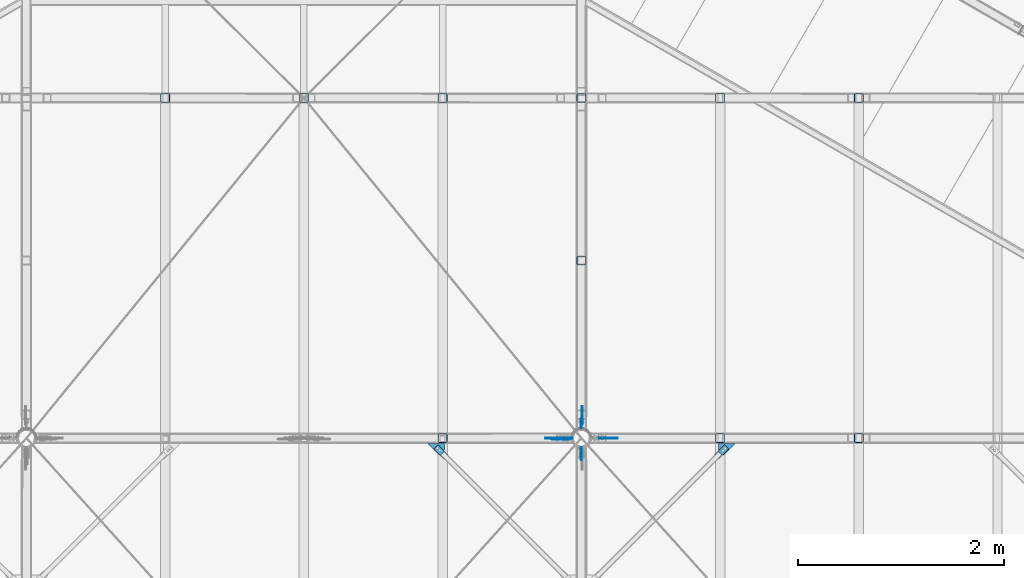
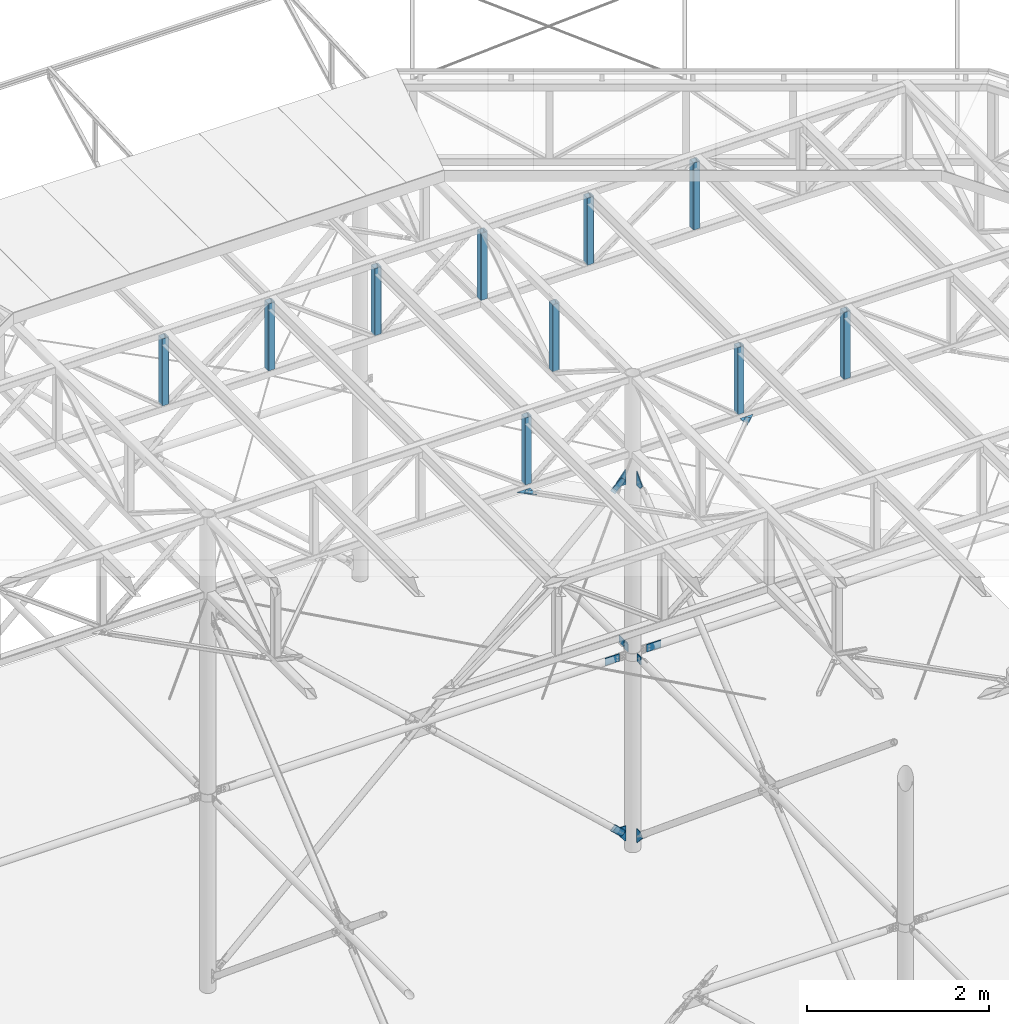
# One storey, part 91 of 132: 31 discrete accessories, 17 elements without a shape of their own.
"""IFC2X3 building model written with IfcOpenShell, lengths in millimetres."""

from ifc_helpers import new_model, si_unit, frame, origin_with_axes, origin_2d_with_axis, place, context, subcontext, project, spatial, polyline, rectangle, hollow_rectangle, outline, extrude, boolean, clip, halfspace, material, type_object, element, aggregate, save


model = new_model("IFC2X3")

# Units and contexts
model_context = context("Model", 3, precision=1e-05, world=origin_with_axes())
body_context = subcontext(model_context, "Body", "Model", "MODEL_VIEW")
ifc_project = project(units=[si_unit("LENGTHUNIT", "METRE", prefix="MILLI"), si_unit("AREAUNIT", "SQUARE_METRE"), si_unit("VOLUMEUNIT", "CUBIC_METRE"), si_unit("MASSUNIT", "GRAM", prefix="KILO"), si_unit("TIMEUNIT", "SECOND"), si_unit("PLANEANGLEUNIT", "RADIAN"), si_unit("SOLIDANGLEUNIT", "STERADIAN"), si_unit("THERMODYNAMICTEMPERATUREUNIT", "DEGREE_CELSIUS"), si_unit("LUMINOUSINTENSITYUNIT", "LUMEN")], contexts=[model_context])

# Site, building, storey
site_placement = place(None, origin_with_axes())
site = spatial("IfcSite", under=ifc_project, at=site_placement, Name="Budowa", CompositionType="ELEMENT")
building_placement = place(site_placement, origin_with_axes())
building = spatial("IfcBuilding", under=site, at=building_placement, Name="Undefined", CompositionType="ELEMENT")
storey_placement = place(building_placement, origin_with_axes())
storey = spatial("IfcBuildingStorey", under=building, at=storey_placement, Name="Undefined", CompositionType="ELEMENT", Elevation=0.0)

# Assembly, discrete accessories
assembly_1_placement = place(storey_placement, origin_with_axes())
assembly_1 = element("IfcElementAssembly", 1, at=assembly_1_placement, inside=storey, Name="Steel Assembly", AssemblyPlace="NOTDEFINED", PredefinedType="RIGID_FRAME")
ifc_material = material(Name="STEEL/S235")
discrete_accessory_type_1 = type_object("IfcDiscreteAccessoryType", Name="BLACHA")
discrete_accessory_1_placement = place(assembly_1_placement, frame((14736.1000002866, 17999.9990001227, 12407.0002670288), z_axis=(0.0, -1.0, 0.0), x_axis=(0.0, 0.0, 1.0)))
discrete_accessory_1 = element("IfcDiscreteAccessory", 2, at=discrete_accessory_1_placement, type_object=discrete_accessory_type_1, material=ifc_material, Name="BLACHA", ObjectType="BL8*126", context=body_context, shape_type="SweptSolid", body=[
    extrude(outline(polyline([(0.0, 0.0), (203.000061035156, 0.0), (203.000061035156, 10.0), (58.0005645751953, 125.999824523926), (-1.72803993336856e-10, 72.998420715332), (0.0, 0.0)])), frame((0.0, 0.0, -4.0), z_axis=(0.0, 0.0, 1.0), x_axis=(1.0, 0.0, 0.0)), (0.0, 0.0, 1.0), 8.0),
])
discrete_accessory_2_placement = place(assembly_1_placement, frame((14736.1000003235, 17999.9990001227, 7622.0004196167), z_axis=(0.0, -1.0, 0.0), x_axis=(0.0, 0.0, 1.0)))
discrete_accessory_2 = element("IfcDiscreteAccessory", 3, at=discrete_accessory_2_placement, type_object=discrete_accessory_type_1, material=ifc_material, Name="BLACHA", ObjectType="BL8*126", context=body_context, shape_type="SweptSolid", body=[
    extrude(outline(polyline([(0.0, 0.0), (203.000061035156, 0.0), (203.000076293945, 72.998420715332), (145.000457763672, 125.999824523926), (0.0, 10.0), (0.0, 0.0)])), frame((0.0, 0.0, -4.0), z_axis=(0.0, 0.0, 1.0), x_axis=(1.0, 0.0, 0.0)), (0.0, 0.0, 1.0), 8.0),
])

# Assembly, discrete accessory
assembly_2_placement = place(storey_placement, origin_with_axes())
assembly_2 = element("IfcElementAssembly", 4, at=assembly_2_placement, inside=storey, Name="Steel Assembly", AssemblyPlace="NOTDEFINED", PredefinedType="RIGID_FRAME")
discrete_accessory_3_placement = place(assembly_2_placement, frame((14702.6899626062, 17989.9999976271, 12497.1715521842), z_axis=(-0.678551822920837, 0.0, 0.734552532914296), x_axis=(-0.734552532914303, 0.0, -0.67855182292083)))
discrete_accessory_3 = element("IfcDiscreteAccessory", 5, at=discrete_accessory_3_placement, type_object=discrete_accessory_type_1, material=ifc_material, Name="BLACHA", ObjectType="BL8*86", context=body_context, shape_type="CSG", body=[
    boolean("DIFFERENCE", boolean("DIFFERENCE", extrude(rectangle(XDim=8.0, YDim=86.0, at=origin_2d_with_axis()), frame((190.000000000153, -3.63797880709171e-12, 3.30513394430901e-13), z_axis=(-1.0, 0.0, 0.0), x_axis=(0.0, -1.0, 0.0)), (0.0, 0.0, 1.0), 190.0), extrude(outline(polyline([(0.0, 0.0), (20.0000000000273, -3.63797880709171e-12), (5.45696821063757e-12, 20.0000000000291), (0.0, 0.0)])), frame((-1.81898940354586e-12, -6.50000242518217, -42.9999999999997), z_axis=(0.0, 1.0, 0.0), x_axis=(0.0, 0.0, 1.0)), (0.0, 0.0, 1.0), 13.0)), extrude(outline(polyline([(0.0, 0.0), (20.0000000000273, -3.63797880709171e-12), (5.45696821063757e-12, 20.0000000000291), (0.0, 0.0)])), frame((-1.81898940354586e-12, 6.49999757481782, 42.9999999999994), z_axis=(0.0, -1.0, 0.0), x_axis=(0.0, 0.0, -1.0)), (0.0, 0.0, 1.0), 13.0)),
])
aggregate(assembly_2, [discrete_accessory_3])

assembly_3_placement = place(storey_placement, origin_with_axes())
assembly_3 = element("IfcElementAssembly", 6, at=assembly_3_placement, inside=storey, Name="Steel Assembly", AssemblyPlace="NOTDEFINED", PredefinedType="RIGID_FRAME")
discrete_accessory_4_placement = place(assembly_3_placement, frame((14702.689963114, 17989.9999973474, 7734.82920317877), z_axis=(0.678551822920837, 0.0, 0.734552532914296), x_axis=(-0.734552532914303, 0.0, 0.67855182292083)))
discrete_accessory_4 = element("IfcDiscreteAccessory", 7, at=discrete_accessory_4_placement, type_object=discrete_accessory_type_1, material=ifc_material, Name="BLACHA", ObjectType="BL8*86", context=body_context, shape_type="CSG", body=[
    boolean("DIFFERENCE", boolean("DIFFERENCE", extrude(rectangle(XDim=8.0, YDim=86.0, at=origin_2d_with_axis()), frame((190.000000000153, -3.63797880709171e-12, 3.30513394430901e-13), z_axis=(-1.0, 0.0, 0.0), x_axis=(0.0, -1.0, 0.0)), (0.0, 0.0, 1.0), 190.0), extrude(outline(polyline([(0.0, 0.0), (20.0000000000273, -3.63797880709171e-12), (5.45696821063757e-12, 20.0000000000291), (0.0, 0.0)])), frame((-1.81898940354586e-12, 6.49999757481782, 42.9999999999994), z_axis=(0.0, -1.0, 0.0), x_axis=(0.0, 0.0, -1.0)), (0.0, 0.0, 1.0), 13.0)), extrude(outline(polyline([(0.0, 0.0), (20.0000000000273, -3.63797880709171e-12), (5.45696821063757e-12, 20.0000000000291), (0.0, 0.0)])), frame((-1.81898940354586e-12, -6.50000242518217, -42.9999999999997), z_axis=(0.0, 1.0, 0.0), x_axis=(0.0, 0.0, 1.0)), (0.0, 0.0, 1.0), 13.0)),
])
aggregate(assembly_3, [discrete_accessory_4])

assembly_4_placement = place(storey_placement, origin_with_axes())
assembly_4 = element("IfcElementAssembly", 8, at=assembly_4_placement, inside=storey, Name="Steel Assembly", AssemblyPlace="NOTDEFINED", PredefinedType="RIGID_FRAME")
discrete_accessory_5_placement = place(assembly_4_placement, frame((14832.9999969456, 18127.9079054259, 10116.0003779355), z_axis=(-1.0, 0.0, 0.0), x_axis=(0.0, 1.0, 0.0)))
discrete_accessory_5 = element("IfcDiscreteAccessory", 9, at=discrete_accessory_5_placement, type_object=discrete_accessory_type_1, material=ifc_material, Name="BLACHA", ObjectType="BL8*100", context=body_context, shape_type="SweptSolid", body=[
    extrude(outline(polyline([(0.0, 50.0), (180.0, 50.0), (180.0, -50.0), (0.0, -50.0), (0.0, 50.0)])), frame((0.0, 0.0, -4.0), z_axis=(0.0, 0.0, 1.0), x_axis=(1.0, 0.0, 0.0)), (0.0, 0.0, 1.0), 8.0),
])
aggregate(assembly_4, [discrete_accessory_5])

assembly_5_placement = place(storey_placement, origin_with_axes())
assembly_5 = element("IfcElementAssembly", 10, at=assembly_5_placement, inside=storey, Name="Steel Assembly", AssemblyPlace="NOTDEFINED", PredefinedType="RIGID_FRAME")
discrete_accessory_6_placement = place(assembly_5_placement, frame((14824.9999969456, 18097.995643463, 10166.0003762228), z_axis=(1.0, 0.0, 0.0), x_axis=(0.0, 0.0, -1.0)))
discrete_accessory_6 = element("IfcDiscreteAccessory", 11, at=discrete_accessory_6_placement, type_object=discrete_accessory_type_1, material=ifc_material, Name="BLACHA", ObjectType="BL8*90", context=body_context, shape_type="SweptSolid", body=[
    extrude(outline(polyline([(0.0, 0.0), (100.0, 0.0), (100.0, 89.9122619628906), (0.0, 89.9122619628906), (0.0, 0.0)])), frame((0.0, 0.0, -4.0), z_axis=(0.0, 0.0, 1.0), x_axis=(1.0, 0.0, 0.0)), (0.0, 0.0, 1.0), 8.0),
])
aggregate(assembly_5, [discrete_accessory_6])

# Discrete accessory
discrete_accessory_7_placement = place(assembly_1_placement, frame((14825.000002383, 17911.1000000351, 7622.99987030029), z_axis=(1.0, 0.0, 0.0), x_axis=(0.0, 0.0, 1.0)))
discrete_accessory_7 = element("IfcDiscreteAccessory", 12, at=discrete_accessory_7_placement, type_object=discrete_accessory_type_1, material=ifc_material, Name="BLACHA", ObjectType="BL8*126", context=body_context, shape_type="SweptSolid", body=[
    extrude(outline(polyline([(0.0, 0.0), (188.000686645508, 0.0), (188.000686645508, 75.9982376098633), (127.00080871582, 125.999382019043), (0.0, 10.0), (0.0, 0.0)])), frame((0.0, 0.0, -4.0), z_axis=(0.0, 0.0, 1.0), x_axis=(1.0, 0.0, 0.0)), (0.0, 0.0, 1.0), 8.0),
])

discrete_accessory_8_placement = place(assembly_1_placement, frame((14825.000002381, 17911.1000000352, 12421.0002059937), z_axis=(1.0, 0.0, 0.0), x_axis=(0.0, 0.0, 1.0)))
discrete_accessory_8 = element("IfcDiscreteAccessory", 13, at=discrete_accessory_8_placement, type_object=discrete_accessory_type_1, material=ifc_material, Name="BLACHA", ObjectType="BL8*126", context=body_context, shape_type="SweptSolid", body=[
    extrude(outline(polyline([(0.0, 0.0), (187.999725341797, 0.0), (187.999725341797, 10.0), (60.999870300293, 125.999382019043), (5.18411980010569e-09, 75.9982376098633), (0.0, 0.0)])), frame((0.0, 0.0, -4.0), z_axis=(0.0, 0.0, 1.0), x_axis=(1.0, 0.0, 0.0)), (0.0, 0.0, 1.0), 8.0),
])

# Assembly, discrete accessory
assembly_6_placement = place(storey_placement, origin_with_axes())
assembly_6 = element("IfcElementAssembly", 14, at=assembly_6_placement, inside=storey, Name="Steel Assembly", AssemblyPlace="NOTDEFINED", PredefinedType="RIGID_FRAME")
discrete_accessory_9_placement = place(assembly_6_placement, frame((14824.9999972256, 17902.0043566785, 10066.0003759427), z_axis=(1.0, 0.0, 0.0), x_axis=(0.0, 0.0, 1.0)))
discrete_accessory_9 = element("IfcDiscreteAccessory", 15, at=discrete_accessory_9_placement, type_object=discrete_accessory_type_1, material=ifc_material, Name="BLACHA", ObjectType="BL8*90", context=body_context, shape_type="SweptSolid", body=[
    extrude(outline(polyline([(0.0, 0.0), (100.0, 0.0), (100.0, 89.9122619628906), (0.0, 89.9122619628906), (0.0, 0.0)])), frame((0.0, 0.0, -4.0), z_axis=(0.0, 0.0, 1.0), x_axis=(1.0, 0.0, 0.0)), (0.0, 0.0, 1.0), 8.0),
])
aggregate(assembly_6, [discrete_accessory_9])

assembly_7_placement = place(storey_placement, origin_with_axes())
assembly_7 = element("IfcElementAssembly", 16, at=assembly_7_placement, inside=storey, Name="Steel Assembly", AssemblyPlace="NOTDEFINED", PredefinedType="RIGID_FRAME")
discrete_accessory_10_placement = place(assembly_7_placement, frame((14651.863305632, 17997.9999994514, 10116.0003779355), z_axis=(0.0, 1.0, 0.0), x_axis=(-1.0, 0.0, 0.0)))
discrete_accessory_10 = element("IfcDiscreteAccessory", 17, at=discrete_accessory_10_placement, type_object=discrete_accessory_type_1, material=ifc_material, Name="BLACHA", ObjectType="BL8*100", context=body_context, shape_type="SweptSolid", body=[
    extrude(outline(polyline([(180.0, -50.0), (0.0, -50.0), (0.0, 50.0), (180.0, 50.0), (180.0, -50.0)])), frame((0.0, 0.0, -4.0), z_axis=(0.0, 0.0, 1.0), x_axis=(1.0, 0.0, 0.0)), (0.0, 0.0, 1.0), 8.0),
])
aggregate(assembly_7, [discrete_accessory_10])

assembly_8_placement = place(storey_placement, origin_with_axes())
assembly_8 = element("IfcElementAssembly", 18, at=assembly_8_placement, inside=storey, Name="Steel Assembly", AssemblyPlace="NOTDEFINED", PredefinedType="RIGID_FRAME")
discrete_accessory_11_placement = place(assembly_8_placement, frame((14998.1366941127, 17997.9999994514, 10116.0003779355), z_axis=(0.0, -1.0, 0.0), x_axis=(1.0, 0.0, 0.0)))
discrete_accessory_11 = element("IfcDiscreteAccessory", 19, at=discrete_accessory_11_placement, type_object=discrete_accessory_type_1, material=ifc_material, Name="BLACHA", ObjectType="BL8*100", context=body_context, shape_type="SweptSolid", body=[
    extrude(outline(polyline([(0.0, -50.0), (0.0, 50.0), (180.0, 50.0), (180.0, -50.0), (0.0, -50.0)])), frame((0.0, 0.0, -4.0), z_axis=(0.0, 0.0, 1.0), x_axis=(1.0, 0.0, 0.0)), (0.0, 0.0, 1.0), 8.0),
])
aggregate(assembly_8, [discrete_accessory_11])

# Discrete accessory
discrete_accessory_12_placement = place(assembly_1_placement, frame((14825.0000000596, 17911.1000000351, 7645.25482469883), z_axis=(1.0, 0.0, 0.0), x_axis=(0.0, 0.0, 1.0)))
discrete_accessory_12 = element("IfcDiscreteAccessory", 20, at=discrete_accessory_12_placement, type_object=discrete_accessory_type_1, material=ifc_material, Name="BLACHA", ObjectType="BL8*127", context=body_context, shape_type="SweptSolid", body=[
    extrude(outline(polyline([(0.0, 0.0), (165.901336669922, 0.0), (165.901351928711, 76.0204010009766), (105.144889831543, 126.514472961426), (0.0, 10.0), (0.0, 0.0)])), frame((0.0, 0.0, -4.0), z_axis=(0.0, 0.0, 1.0), x_axis=(1.0, 0.0, 0.0)), (0.0, 0.0, 1.0), 8.0),
])

discrete_accessory_13_placement = place(assembly_1_placement, frame((14825.0000000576, 17911.1000000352, 12420.8436244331), z_axis=(1.0, 0.0, 0.0), x_axis=(0.0, 0.0, 1.0)))
discrete_accessory_13 = element("IfcDiscreteAccessory", 21, at=discrete_accessory_13_placement, type_object=discrete_accessory_type_1, material=ifc_material, Name="BLACHA", ObjectType="BL8*127", context=body_context, shape_type="SweptSolid", body=[
    extrude(outline(polyline([(0.0, 0.0), (165.901336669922, 0.0), (165.901336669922, 10.0), (60.7564697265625, 126.514472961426), (0.0, 76.0204086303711), (0.0, 0.0)])), frame((0.0, 0.0, -4.0), z_axis=(0.0, 0.0, 1.0), x_axis=(1.0, 0.0, 0.0)), (0.0, 0.0, 1.0), 8.0),
])

# Assembly, discrete accessory
assembly_9_placement = place(storey_placement, origin_with_axes())
assembly_9 = element("IfcElementAssembly", 22, at=assembly_9_placement, inside=storey, Name="Steel Assembly", AssemblyPlace="NOTDEFINED", PredefinedType="RIGID_FRAME")
discrete_accessory_14_placement = place(assembly_9_placement, frame((14702.689963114, 17991.9999973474, 7734.82920317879), z_axis=(0.678551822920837, 0.0, 0.734552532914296), x_axis=(-0.734552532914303, 0.0, 0.67855182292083)))
discrete_accessory_14 = element("IfcDiscreteAccessory", 23, at=discrete_accessory_14_placement, type_object=discrete_accessory_type_1, material=ifc_material, Name="BLACHA", ObjectType="BL8*69", context=body_context, shape_type="SweptSolid", body=[
    extrude(rectangle(XDim=8.0, YDim=69.0, at=origin_2d_with_axis()), frame((149.999999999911, 0.0, 0.0), z_axis=(-1.0, 0.0, 0.0), x_axis=(0.0, -1.0, 0.0)), (0.0, 0.0, 1.0), 150.0),
])
aggregate(assembly_9, [discrete_accessory_14])

# Discrete accessory
discrete_accessory_15_placement = place(assembly_1_placement, frame((14736.1000003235, 17999.9999973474, 7650.19203918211), z_axis=(0.0, -1.0, 0.0), x_axis=(0.0, 0.0, 1.0)))
discrete_accessory_15 = element("IfcDiscreteAccessory", 24, at=discrete_accessory_15_placement, type_object=discrete_accessory_type_1, material=ifc_material, Name="BLACHA", ObjectType="BL8*126", context=body_context, shape_type="SweptSolid", body=[
    extrude(outline(polyline([(0.0, 0.0), (174.721649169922, 0.0), (174.721649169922, 72.7169723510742), (116.692001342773, 126.322563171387), (0.0, 10.0), (0.0, 0.0)])), frame((0.0, 0.0, -4.0), z_axis=(0.0, 0.0, 1.0), x_axis=(1.0, 0.0, 0.0)), (0.0, 0.0, 1.0), 8.0),
])

# Assembly, discrete accessory
assembly_10_placement = place(storey_placement, origin_with_axes())
assembly_10 = element("IfcElementAssembly", 25, at=assembly_10_placement, inside=storey, Name="Steel Assembly", AssemblyPlace="NOTDEFINED", PredefinedType="RIGID_FRAME")
discrete_accessory_16_placement = place(assembly_10_placement, frame((14702.6899626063, 17991.9999976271, 12497.1715521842), z_axis=(-0.678551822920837, 0.0, 0.734552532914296), x_axis=(-0.734552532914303, 0.0, -0.67855182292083)))
discrete_accessory_16 = element("IfcDiscreteAccessory", 26, at=discrete_accessory_16_placement, type_object=discrete_accessory_type_1, material=ifc_material, Name="BLACHA", ObjectType="BL8*69", context=body_context, shape_type="SweptSolid", body=[
    extrude(rectangle(XDim=8.0, YDim=69.0, at=origin_2d_with_axis()), frame((149.999999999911, 0.0, 0.0), z_axis=(-1.0, 0.0, 0.0), x_axis=(0.0, -1.0, 0.0)), (0.0, 0.0, 1.0), 150.0),
])
aggregate(assembly_10, [discrete_accessory_16])

# Discrete accessory
discrete_accessory_17_placement = place(assembly_1_placement, frame((14736.1000002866, 17999.9999976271, 12407.0870645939), z_axis=(0.0, -1.0, 0.0), x_axis=(0.0, 0.0, 1.0)))
discrete_accessory_17 = element("IfcDiscreteAccessory", 27, at=discrete_accessory_17_placement, type_object=discrete_accessory_type_1, material=ifc_material, Name="BLACHA", ObjectType="BL8*126", context=body_context, shape_type="SweptSolid", body=[
    extrude(outline(polyline([(0.0, 0.0), (174.721649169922, 0.0), (174.721649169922, 10.0), (58.0296516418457, 126.322563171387), (0.0, 72.7169723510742), (0.0, 0.0)])), frame((0.0, 0.0, -4.0), z_axis=(0.0, 0.0, 1.0), x_axis=(1.0, 0.0, 0.0)), (0.0, 0.0, 1.0), 8.0),
])

aggregate(assembly_1, [discrete_accessory_1, discrete_accessory_2, discrete_accessory_7, discrete_accessory_8, discrete_accessory_12, discrete_accessory_13, discrete_accessory_15, discrete_accessory_17])

# Assembly, discrete accessory
assembly_11_placement = place(storey_placement, origin_with_axes())
assembly_11 = element("IfcElementAssembly", 28, at=assembly_11_placement, inside=storey, Name="Steel Assembly", AssemblyPlace="NOTDEFINED", PredefinedType="RIGID_FRAME")
discrete_accessory_18_placement = place(assembly_11_placement, frame((16162.0050487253, 17794.5786419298, 12830.0), z_axis=(0.0, 0.0, 1.0), x_axis=(0.707106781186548, 0.707106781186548, 0.0)))
discrete_accessory_18 = element("IfcDiscreteAccessory", 29, at=discrete_accessory_18_placement, type_object=discrete_accessory_type_1, material=ifc_material, Name="BLACHA", ObjectType="BL6*60", context=body_context, shape_type="SweptSolid", body=[
    extrude(outline(polyline([(0.0, 0.0), (139.99999999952, -6.2755134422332e-10), (139.99999999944, 59.9999999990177), (0.0, 60.0), (-8.00355337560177e-11, 54.9999999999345), (49.9999999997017, 54.9999999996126), (49.9999999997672, 4.99999999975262), (-8.73114913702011e-11, 5.00000000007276), (0.0, 0.0)])), frame((0.0, 0.0, -3.0), z_axis=(0.0, 0.0, 1.0), x_axis=(1.0, 0.0, 0.0)), (0.0, 0.0, 1.0), 6.0),
])
aggregate(assembly_11, [discrete_accessory_18])

assembly_12_placement = place(storey_placement, origin_with_axes())
assembly_12 = element("IfcElementAssembly", 30, at=assembly_12_placement, inside=storey, Name="Steel Assembly", AssemblyPlace="NOTDEFINED", PredefinedType="RIGID_FRAME")
discrete_accessory_19_placement = place(assembly_12_placement, frame((16324.4974746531, 17950.000000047, 12824.0), z_axis=(0.0, 0.0, 1.0), x_axis=(-1.0, 0.0, 0.0)))
discrete_accessory_19 = element("IfcDiscreteAccessory", 31, at=discrete_accessory_19_placement, type_object=discrete_accessory_type_1, material=ifc_material, Name="BLACHA", ObjectType="BL6*117", context=body_context, shape_type="SweptSolid", body=[
    extrude(outline(polyline([(0.0, 0.0), (166.027954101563, 0.0), (166.027954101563, 67.0330123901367), (116.530487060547, 116.530487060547), (0.0, 0.0)])), frame((0.0, 0.0, -3.0), z_axis=(0.0, 0.0, 1.0), x_axis=(1.0, 0.0, 0.0)), (0.0, 0.0, 1.0), 6.0),
])

assembly_13_placement = place(storey_placement, origin_with_axes())
assembly_13 = element("IfcElementAssembly", 32, at=assembly_13_placement, inside=storey, Name="Steel Assembly", AssemblyPlace="NOTDEFINED", PredefinedType="RIGID_FRAME")
discrete_accessory_20_placement = place(assembly_13_placement, frame((13530.4213581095, 17837.0050487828, 12830.0), z_axis=(0.0, 0.0, 1.0), x_axis=(-0.707106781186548, 0.707106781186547, 0.0)))
discrete_accessory_20 = element("IfcDiscreteAccessory", 33, at=discrete_accessory_20_placement, type_object=discrete_accessory_type_1, material=ifc_material, Name="BLACHA", ObjectType="BL6*60", context=body_context, shape_type="SweptSolid", body=[
    extrude(outline(polyline([(0.0, 0.0), (139.99999999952, -6.2755134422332e-10), (139.99999999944, 59.9999999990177), (0.0, 60.0), (-8.00355337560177e-11, 54.9999999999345), (49.9999999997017, 54.9999999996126), (49.9999999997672, 4.99999999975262), (-8.73114913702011e-11, 5.00000000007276), (0.0, 0.0)])), frame((0.0, 0.0, -3.0), z_axis=(0.0, 0.0, 1.0), x_axis=(1.0, 0.0, 0.0)), (0.0, 0.0, 1.0), 6.0),
])
aggregate(assembly_13, [discrete_accessory_20])

assembly_14_placement = place(storey_placement, origin_with_axes())
assembly_14 = element("IfcElementAssembly", 34, at=assembly_14_placement, inside=storey, Name="Steel Assembly", AssemblyPlace="NOTDEFINED", PredefinedType="RIGID_FRAME")
discrete_accessory_21_placement = place(assembly_14_placement, frame((13491.5304832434, 17950.000000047, 12824.0), z_axis=(0.0, 0.0, 1.0), x_axis=(-1.0, 0.0, 0.0)))
discrete_accessory_21 = element("IfcDiscreteAccessory", 35, at=discrete_accessory_21_placement, type_object=discrete_accessory_type_1, material=ifc_material, Name="BLACHA", ObjectType="BL6*117", context=body_context, shape_type="SweptSolid", body=[
    extrude(outline(polyline([(0.0, 0.0), (166.027954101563, 0.0), (49.4974746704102, 116.530487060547), (0.0, 67.0330123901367), (0.0, 0.0)])), frame((0.0, 0.0, -3.0), z_axis=(0.0, 0.0, 1.0), x_axis=(1.0, 0.0, 0.0)), (0.0, 0.0, 1.0), 6.0),
])

# Assembly, discrete accessories
assembly_15_placement = place(storey_placement, origin_with_axes())
assembly_15 = element("IfcElementAssembly", 36, at=assembly_15_placement, inside=storey, Name="Steel Assembly", AssemblyPlace="NOTDEFINED", PredefinedType="RIGID_FRAME")
discrete_accessory_type_2 = type_object("IfcDiscreteAccessoryType", Name="BEAM")
discrete_accessory_22_placement = place(assembly_15_placement, frame((16174.9999999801, 21310.000000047, 13780.0), z_axis=(0.0, -1.0, 0.0), x_axis=(0.0, 0.0, -1.0)))
discrete_accessory_22 = element("IfcDiscreteAccessory", 37, at=discrete_accessory_22_placement, type_object=discrete_accessory_type_2, material=ifc_material, Name="BEAM", ObjectType="SHS90*6", context=body_context, shape_type="Clipping", body=[
    clip(clip(extrude(hollow_rectangle(XDim=90.0, YDim=90.0, WallThickness=6.0, InnerFilletRadius=6.0, OuterFilletRadius=12.0, at=origin_2d_with_axis()), frame((900.0, 0.0, 0.0), z_axis=(-1.0, 0.0, 0.0), x_axis=(0.0, -1.0, 0.0)), (0.0, 0.0, 1.0), 900.0), halfspace(frame((900.0, 0.0, 1000.0), z_axis=(-1.0, 0.0, 0.0), x_axis=(0.0, -1.0, 0.0)), True)), halfspace(frame((0.0, 0.0, 1000.0), z_axis=(1.0, 0.0, 0.0), x_axis=(0.0, 1.0, 0.0)), True)),
])
discrete_accessory_23_placement = place(assembly_15_placement, frame((17524.9999999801, 21310.000000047, 13780.0), z_axis=(0.0, -1.0, 0.0), x_axis=(0.0, 0.0, -1.0)))
discrete_accessory_23 = element("IfcDiscreteAccessory", 38, at=discrete_accessory_23_placement, type_object=discrete_accessory_type_2, material=ifc_material, Name="BEAM", ObjectType="SHS90*6", context=body_context, shape_type="Clipping", body=[
    clip(clip(extrude(hollow_rectangle(XDim=90.0, YDim=90.0, WallThickness=6.0, InnerFilletRadius=6.0, OuterFilletRadius=12.0, at=origin_2d_with_axis()), frame((900.0, 0.0, 0.0), z_axis=(-1.0, 0.0, 0.0), x_axis=(0.0, -1.0, 0.0)), (0.0, 0.0, 1.0), 900.0), halfspace(frame((900.0, 0.0, 1000.0), z_axis=(-1.0, 0.0, 0.0), x_axis=(0.0, -1.0, 0.0)), True)), halfspace(frame((0.0, 0.0, 1000.0), z_axis=(1.0, 0.0, 0.0), x_axis=(0.0, 1.0, 0.0)), True)),
])
aggregate(assembly_15, [discrete_accessory_22, discrete_accessory_23])

assembly_16_placement = place(storey_placement, origin_with_axes())
assembly_16 = element("IfcElementAssembly", 39, at=assembly_16_placement, inside=storey, Name="Steel Assembly", AssemblyPlace="NOTDEFINED", PredefinedType="RIGID_FRAME")
discrete_accessory_24_placement = place(assembly_16_placement, frame((14824.999999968, 19729.0000000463, 12880.0), z_axis=(0.0, 0.0, 1.0), x_axis=(-1.0, 0.0, 0.0)))
discrete_accessory_24 = element("IfcDiscreteAccessory", 40, at=discrete_accessory_24_placement, type_object=discrete_accessory_type_2, material=ifc_material, Name="BEAM", ObjectType="SHS90*6", context=body_context, shape_type="Clipping", body=[
    clip(clip(extrude(hollow_rectangle(XDim=90.0, YDim=90.0, WallThickness=6.0, InnerFilletRadius=6.0, OuterFilletRadius=12.0, at=origin_2d_with_axis()), frame((0.0, 0.0, 900.0), z_axis=(0.0, 0.0, -1.0), x_axis=(0.0, 1.0, 0.0)), (0.0, 0.0, 1.0), 900.0), halfspace(frame((1000.0, 0.0, 900.0), z_axis=(0.0, 0.0, -1.0), x_axis=(0.0, 1.0, 0.0)), True)), halfspace(frame((1000.0, 0.0, 0.0), z_axis=(0.0, 0.0, 1.0), x_axis=(0.0, -1.0, 0.0)), True)),
])
discrete_accessory_25_placement = place(assembly_16_placement, frame((14824.999999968, 21310.0000000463, 12880.0), z_axis=(0.0, 0.0, 1.0), x_axis=(-1.0, 0.0, 0.0)))
discrete_accessory_25 = element("IfcDiscreteAccessory", 41, at=discrete_accessory_25_placement, type_object=discrete_accessory_type_2, material=ifc_material, Name="BEAM", ObjectType="SHS90*6", context=body_context, shape_type="Clipping", body=[
    clip(clip(extrude(hollow_rectangle(XDim=90.0, YDim=90.0, WallThickness=6.0, InnerFilletRadius=6.0, OuterFilletRadius=12.0, at=origin_2d_with_axis()), frame((0.0, 0.0, 900.0), z_axis=(0.0, 0.0, -1.0), x_axis=(0.0, 1.0, 0.0)), (0.0, 0.0, 1.0), 900.0), halfspace(frame((1000.0, 0.0, 900.0), z_axis=(0.0, 0.0, -1.0), x_axis=(0.0, 1.0, 0.0)), True)), halfspace(frame((1000.0, 0.0, 0.0), z_axis=(0.0, 0.0, 1.0), x_axis=(0.0, -1.0, 0.0)), True)),
])
aggregate(assembly_16, [discrete_accessory_24, discrete_accessory_25])

assembly_17_placement = place(storey_placement, origin_with_axes())
assembly_17 = element("IfcElementAssembly", 42, at=assembly_17_placement, inside=storey, Name="Steel Assembly", AssemblyPlace="NOTDEFINED", PredefinedType="RIGID_FRAME")
discrete_accessory_26_placement = place(assembly_17_placement, frame((13474.9999999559, 21310.000000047, 13780.0), z_axis=(0.0, -1.0, 0.0), x_axis=(0.0, 0.0, -1.0)))
discrete_accessory_26 = element("IfcDiscreteAccessory", 43, at=discrete_accessory_26_placement, type_object=discrete_accessory_type_2, material=ifc_material, Name="BEAM", ObjectType="SHS90*6", context=body_context, shape_type="Clipping", body=[
    clip(clip(extrude(hollow_rectangle(XDim=90.0, YDim=90.0, WallThickness=6.0, InnerFilletRadius=6.0, OuterFilletRadius=12.0, at=origin_2d_with_axis()), frame((900.0, 0.0, 0.0), z_axis=(-1.0, 0.0, 0.0), x_axis=(0.0, -1.0, 0.0)), (0.0, 0.0, 1.0), 900.0), halfspace(frame((900.0, 0.0, 1000.0), z_axis=(-1.0, 0.0, 0.0), x_axis=(0.0, -1.0, 0.0)), True)), halfspace(frame((0.0, 0.0, 1000.0), z_axis=(1.0, 0.0, 0.0), x_axis=(0.0, 1.0, 0.0)), True)),
])
discrete_accessory_27_placement = place(assembly_17_placement, frame((10774.9999999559, 21310.000000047, 13780.0), z_axis=(0.0, -1.0, 0.0), x_axis=(0.0, 0.0, -1.0)))
discrete_accessory_27 = element("IfcDiscreteAccessory", 44, at=discrete_accessory_27_placement, type_object=discrete_accessory_type_2, material=ifc_material, Name="BEAM", ObjectType="SHS90*6", context=body_context, shape_type="Clipping", body=[
    clip(clip(extrude(hollow_rectangle(XDim=90.0, YDim=90.0, WallThickness=6.0, InnerFilletRadius=6.0, OuterFilletRadius=12.0, at=origin_2d_with_axis()), frame((900.0, 0.0, 0.0), z_axis=(-1.0, 0.0, 0.0), x_axis=(0.0, -1.0, 0.0)), (0.0, 0.0, 1.0), 900.0), halfspace(frame((900.0, 0.0, 1000.0), z_axis=(-1.0, 0.0, 0.0), x_axis=(0.0, -1.0, 0.0)), True)), halfspace(frame((0.0, 0.0, 1000.0), z_axis=(1.0, 0.0, 0.0), x_axis=(0.0, 1.0, 0.0)), True)),
])
discrete_accessory_28_placement = place(assembly_17_placement, frame((12124.9999999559, 21310.000000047, 13780.0), z_axis=(0.0, -1.0, 0.0), x_axis=(0.0, 0.0, -1.0)))
discrete_accessory_28 = element("IfcDiscreteAccessory", 45, at=discrete_accessory_28_placement, type_object=discrete_accessory_type_2, material=ifc_material, Name="BEAM", ObjectType="SHS90*6", context=body_context, shape_type="Clipping", body=[
    clip(clip(extrude(hollow_rectangle(XDim=90.0, YDim=90.0, WallThickness=6.0, InnerFilletRadius=6.0, OuterFilletRadius=12.0, at=origin_2d_with_axis()), frame((900.0, 0.0, 0.0), z_axis=(-1.0, 0.0, 0.0), x_axis=(0.0, -1.0, 0.0)), (0.0, 0.0, 1.0), 900.0), halfspace(frame((900.0, 0.0, 1000.0), z_axis=(-1.0, 0.0, 0.0), x_axis=(0.0, -1.0, 0.0)), True)), halfspace(frame((0.0, 0.0, 1000.0), z_axis=(1.0, 0.0, 0.0), x_axis=(0.0, 1.0, 0.0)), True)),
])
aggregate(assembly_17, [discrete_accessory_26, discrete_accessory_27, discrete_accessory_28])

# Discrete accessory
discrete_accessory_29_placement = place(assembly_12_placement, frame((16174.9999999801, 18000.000000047, 13780.0), z_axis=(0.0, -1.0, 0.0), x_axis=(0.0, 0.0, -1.0)))
discrete_accessory_29 = element("IfcDiscreteAccessory", 46, at=discrete_accessory_29_placement, type_object=discrete_accessory_type_2, material=ifc_material, Name="BEAM", ObjectType="SHS90*6", context=body_context, shape_type="Clipping", body=[
    clip(clip(extrude(hollow_rectangle(XDim=90.0, YDim=90.0, WallThickness=6.0, InnerFilletRadius=6.0, OuterFilletRadius=12.0, at=origin_2d_with_axis()), frame((900.0, 0.0, 0.0), z_axis=(-1.0, 0.0, 0.0), x_axis=(0.0, -1.0, 0.0)), (0.0, 0.0, 1.0), 900.0), halfspace(frame((900.0, 0.0, 1000.0), z_axis=(-1.0, 0.0, 0.0), x_axis=(0.0, -1.0, 0.0)), True)), halfspace(frame((0.0, 0.0, 1000.0), z_axis=(1.0, 0.0, 0.0), x_axis=(0.0, 1.0, 0.0)), True)),
])

discrete_accessory_30_placement = place(assembly_12_placement, frame((17524.9999999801, 18000.000000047, 13780.0), z_axis=(0.0, -1.0, 0.0), x_axis=(0.0, 0.0, -1.0)))
discrete_accessory_30 = element("IfcDiscreteAccessory", 47, at=discrete_accessory_30_placement, type_object=discrete_accessory_type_2, material=ifc_material, Name="BEAM", ObjectType="SHS90*6", context=body_context, shape_type="Clipping", body=[
    clip(clip(extrude(hollow_rectangle(XDim=90.0, YDim=90.0, WallThickness=6.0, InnerFilletRadius=6.0, OuterFilletRadius=12.0, at=origin_2d_with_axis()), frame((900.0, 0.0, 0.0), z_axis=(-1.0, 0.0, 0.0), x_axis=(0.0, -1.0, 0.0)), (0.0, 0.0, 1.0), 900.0), halfspace(frame((900.0, 0.0, 1000.0), z_axis=(-1.0, 0.0, 0.0), x_axis=(0.0, -1.0, 0.0)), True)), halfspace(frame((0.0, 0.0, 1000.0), z_axis=(1.0, 0.0, 0.0), x_axis=(0.0, 1.0, 0.0)), True)),
])

aggregate(assembly_12, [discrete_accessory_19, discrete_accessory_29, discrete_accessory_30])

discrete_accessory_31_placement = place(assembly_14_placement, frame((13474.9999999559, 18000.000000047, 13780.0), z_axis=(0.0, -1.0, 0.0), x_axis=(0.0, 0.0, -1.0)))
discrete_accessory_31 = element("IfcDiscreteAccessory", 48, at=discrete_accessory_31_placement, type_object=discrete_accessory_type_2, material=ifc_material, Name="BEAM", ObjectType="SHS90*6", context=body_context, shape_type="Clipping", body=[
    clip(clip(extrude(hollow_rectangle(XDim=90.0, YDim=90.0, WallThickness=6.0, InnerFilletRadius=6.0, OuterFilletRadius=12.0, at=origin_2d_with_axis()), frame((900.0, 0.0, 0.0), z_axis=(-1.0, 0.0, 0.0), x_axis=(0.0, -1.0, 0.0)), (0.0, 0.0, 1.0), 900.0), halfspace(frame((900.0, 0.0, 1000.0), z_axis=(-1.0, 0.0, 0.0), x_axis=(0.0, -1.0, 0.0)), True)), halfspace(frame((0.0, 0.0, 1000.0), z_axis=(1.0, 0.0, 0.0), x_axis=(0.0, 1.0, 0.0)), True)),
])

aggregate(assembly_14, [discrete_accessory_21, discrete_accessory_31])

save(model, "model.ifc")
